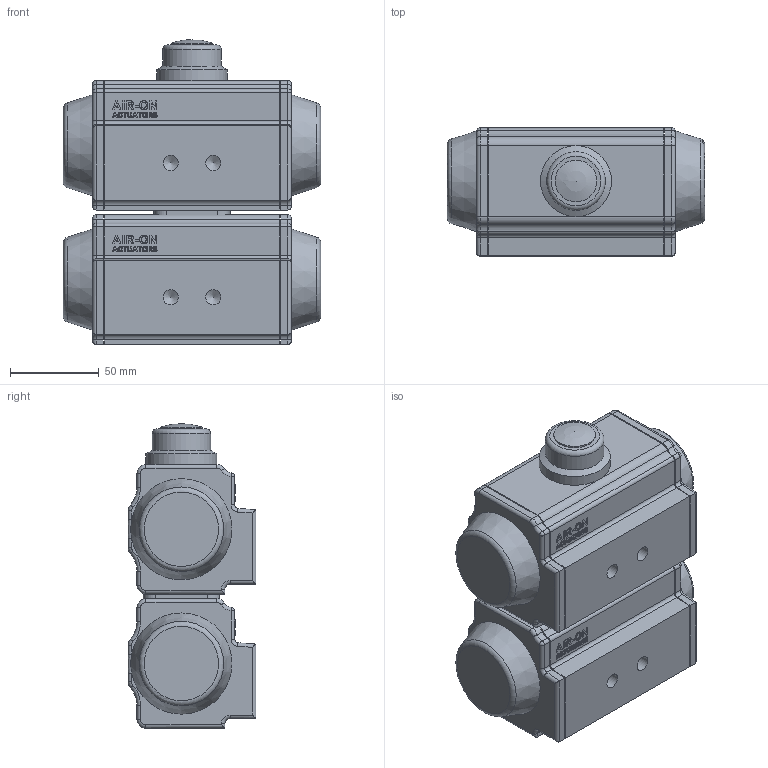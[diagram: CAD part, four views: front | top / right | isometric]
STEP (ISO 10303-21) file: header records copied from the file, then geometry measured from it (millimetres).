
FILE_DESCRIPTION( ( 'Unknown' ), '1' );
FILE_NAME( 'W:/ECCUA/ROOTSI BPS 3D vidinad/Kuulkraanid/Roostevaba kuulkraanid/Ball valve BPS 2411/Ball valve with pneumatic actuator BPS/STEP formaat/BPS 2411020P ball valve DN20.stp', 'Unknown', ( 'Unknown' ), ( 'Unknown' ), 'PSStep 10.1', 'Unknown', ' ' );
FILE_SCHEMA( ( 'AUTOMOTIVE_DESIGN { 1 0 10303 214 1 1 1 1 }' ) );
Length unit declared in the file: millimetre
Products named in the file (5): Assem1; BPS 2411020 ball valve DN20; BPS 8300050DA-SR pneumatic actuator
Bounding box: 145 x 72 x 171.7 mm (x, y, z)
Volume: 1337210.2 mm3; surface area: 172450.4 mm2
Topology: 8 solids, 8 shells, 944 faces, 2390 edges, 1548 vertices
Faces by surface type: plane 356, cylinder 222, extrusion 202, bspline 80, torus 50, cone 28, sphere 6
Full cylindrical faces by diameter (mm): 4.134 x8, 4.917 x8, 8.566 x4, 20 x2, 21 x2, 23.5 x2, 24.117 x4, 31 x2, 33 x2, 40 x2, 42 x2
Entity records: 22655 total; most frequent: CARTESIAN_POINT 8645, ORIENTED_EDGE 2196, DIRECTION 1684, EDGE_CURVE 1098, VERTEX_POINT 744, EDGE_LOOP 578, VECTOR 576, AXIS2_PLACEMENT_3D 554
